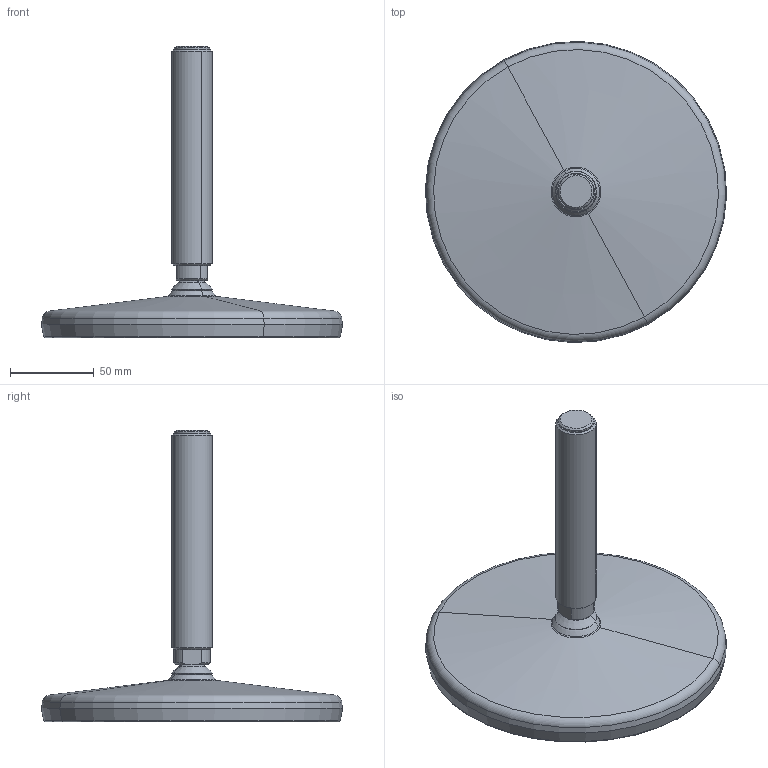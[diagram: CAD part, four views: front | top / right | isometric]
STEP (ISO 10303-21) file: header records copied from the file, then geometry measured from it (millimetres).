
FILE_DESCRIPTION(('CATIA V5 STEP Exchange'),'2;1');
FILE_NAME('X:\CODICI MOVEX\3D per clienti\Stephan Schelonka\05-04-2016\P97903_01.stp','2016-04-05T14:28:12+00:00',('none'),('none'),'Version 5-6 Release 2012','CATIA V5 STEP AP203','none');
FILE_SCHEMA(('CONFIG_CONTROL_DESIGN'));
Length unit declared in the file: millimetre
Products named in the file (1): P97903_01
Assembly tree (3 placements, depth 2):
  P97903_01
    #57
    #1186
    #2281
Bounding box: 179.95 x 179.95 x 174.15 mm (x, y, z)
Volume: 542982.2 mm3; surface area: 127880.3 mm2
Topology: 4 solids, 4 shells, 107 faces, 214 edges, 126 vertices
Faces by surface type: cone 42, plane 23, cylinder 18, torus 18, revolution 4, sphere 2
Entity records: 2605 total; most frequent: CARTESIAN_POINT 467, ORIENTED_EDGE 428, DIRECTION 352, EDGE_CURVE 214, AXIS2_PLACEMENT_3D 213, CIRCLE 142, VERTEX_POINT 126, EDGE_LOOP 122
